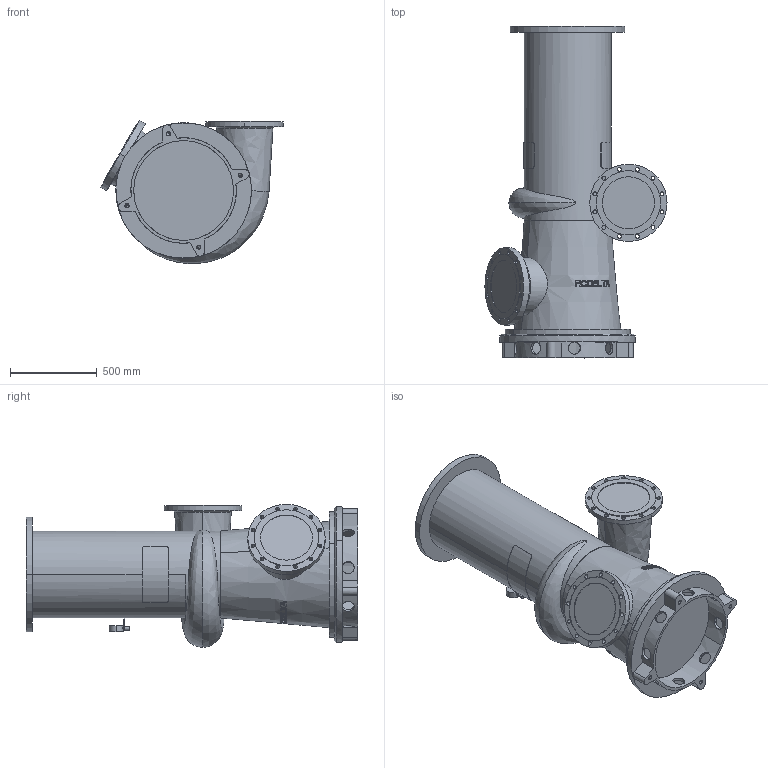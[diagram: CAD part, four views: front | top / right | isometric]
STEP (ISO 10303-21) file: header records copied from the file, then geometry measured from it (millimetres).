
FILE_DESCRIPTION((''),'2;1');
FILE_NAME('12-510_ASM','2024-08-05T',('Lyritlocal'),(''),'PRO/ENGINEER BY PARAMETRIC TECHNOLOGY CORPORATION, 2016360','PRO/ENGINEER BY PARAMETRIC TECHNOLOGY CORPORATION, 2016360','');
FILE_SCHEMA(('CONFIG_CONTROL_DESIGN'));
Length unit declared in the file: millimetre
Products named in the file (3): 12-510; 12-510_VOET; 12-510_ASM
Assembly tree (2 placements, depth 2):
  12-510_ASM
    12-510
    12-510_VOET
Bounding box: 1048.35 x 1910 x 823.56 mm (x, y, z)
Volume: 485964673.1 mm3; surface area: 6451901.8 mm2
Topology: 2 solids, 6 shells, 503 faces, 1366 edges, 900 vertices
Faces by surface type: plane 323, cylinder 138, cone 36, bspline 6
Entity records: 18234 total; most frequent: CARTESIAN_POINT 5945, ORIENTED_EDGE 2700, DIRECTION 2279, EDGE_CURVE 1358, VERTEX_POINT 900, AXIS2_PLACEMENT_3D 896, EDGE_LOOP 608, FACE_OUTER_BOUND 503
